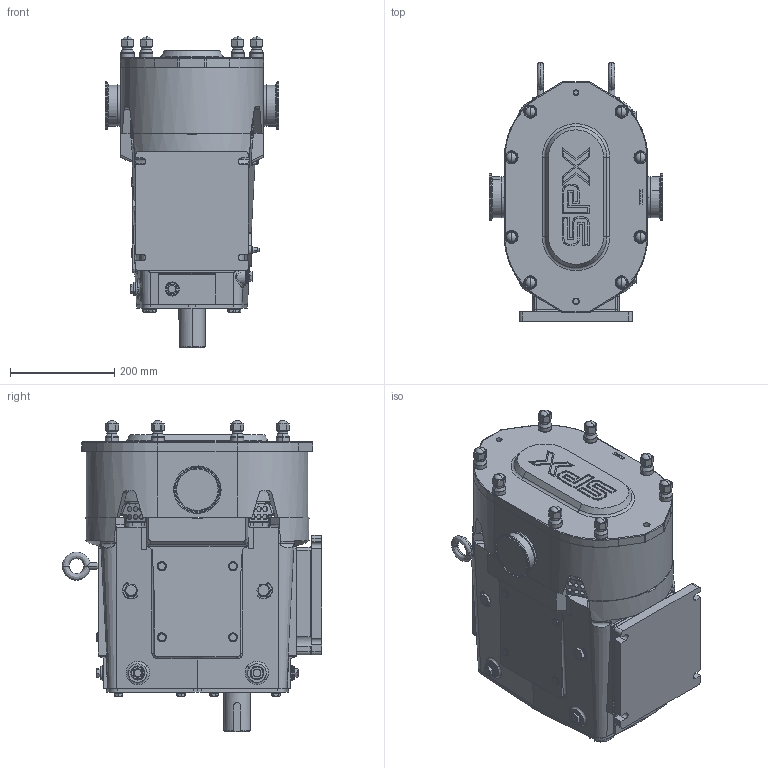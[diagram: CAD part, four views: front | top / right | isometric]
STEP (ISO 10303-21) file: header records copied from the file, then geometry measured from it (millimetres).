
FILE_DESCRIPTION (( 'STEP AP214' ), '1' );
FILE_NAME ('Model 180 Universal 3 Series Lower Drive.STEP', '2017-11-27T14:24:17', ( '' ), ( '' ), 'SwSTEP 2.0', 'SolidWorks 2014', '' );
FILE_SCHEMA (( 'AUTOMOTIVE_DESIGN' ));
Length unit declared in the file: inch
Products named in the file (1): Model 180 Universal 3 Series Lower Drive
Bounding box: 331.76 x 496.89 x 596.34 mm (x, y, z)
Volume: 42935326.1 mm3; surface area: 1194988.5 mm2
Topology: 3 solids, 3 shells, 2269 faces, 5862 edges, 3673 vertices
Faces by surface type: plane 834, cylinder 633, torus 339, cone 281, bspline 166, sphere 16
Entity records: 84010 total; most frequent: CARTESIAN_POINT 29507, ORIENTED_EDGE 11672, DIRECTION 11330, EDGE_CURVE 5836, AXIS2_PLACEMENT_3D 4376, VERTEX_POINT 3673, VECTOR 2578, LINE 2578
